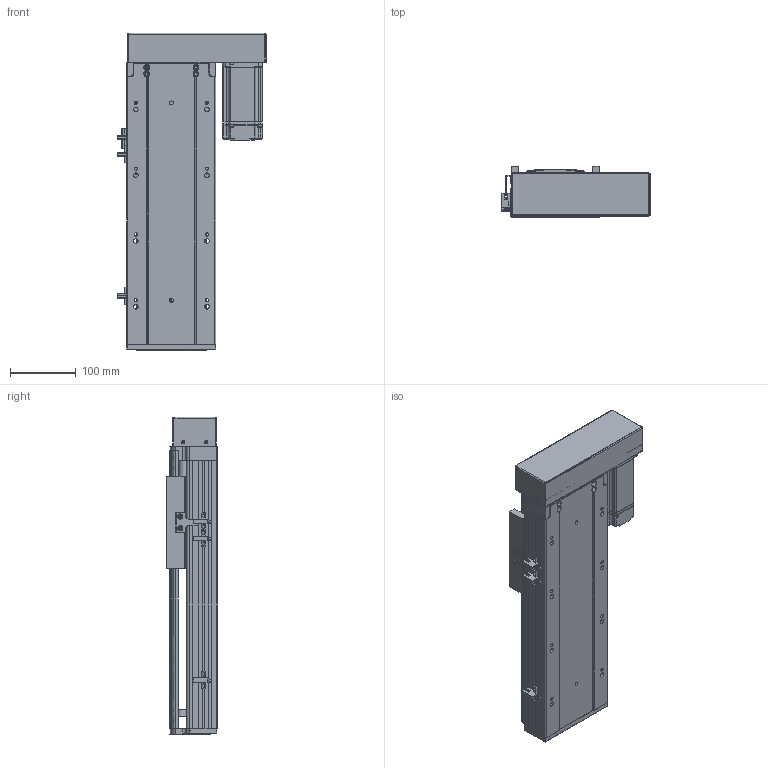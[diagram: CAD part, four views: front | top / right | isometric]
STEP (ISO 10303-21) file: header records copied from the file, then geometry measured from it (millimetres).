
FILE_DESCRIPTION (( 'STEP AP203' ), '1' );
FILE_NAME ('RY140-L1620-300-RK.SLDASM_200.step', '2021-02-22T02:54:09', ( '盈信电脑' ), ( '东莞市道滘镇水果街19号' ), 'SwSTEP 2.0', 'SolidWorks 2012', '' );
FILE_SCHEMA (( 'CONFIG_CONTROL_DESIGN' ));
Products named in the file (14): RY140-L1620-300-RK.SLDASM_200; RY120外置感应片(140共用）; RY140酘衵殏萇儂欶; 覜茼ん672; 侂狟400W侜督萇儂; RY140蛌殏萇儂假蚾啣; 15; RY140转折电机端支撑座; 滅袉蝶18-24; RY140綴裔啣; RY140-300蛌殏倰第奻裔啣-RK_200; 滅袉蝶18-10; RY140臏賑輸; RY140-300蛌殏倰第菁釱-RK_200
Assembly tree (16 placements, depth 3):
  RY140-L1620-300-RK.SLDASM_200
    RY140-300蛌殏倰第菁釱-RK_200
    RY140臏賑輸
    RY140-300蛌殏倰第奻裔啣-RK_200
    RY140綴裔啣
    滅袉蝶18-24  x2
    滅袉蝶18-10
    RY140转折电机端支撑座
    RY140蛌殏萇儂假蚾啣
    侂狟400W侜督萇儂
      15
    RY140酘衵殏萇儂欶
    覜茼ん672  x3
    RY120外置感应片(140共用）
Bounding box: 225.2 x 78 x 483 mm (x, y, z)
Volume: 2091142.9 mm3; surface area: 710803.8 mm2
Topology: 15 solids, 15 shells, 2167 faces, 5956 edges, 3834 vertices
Faces by surface type: plane 1174, cylinder 742, cone 158, bspline 93
Entity records: 68375 total; most frequent: CARTESIAN_POINT 16605, ORIENTED_EDGE 10688, DIRECTION 10097, EDGE_CURVE 5344, LINE 3513, VECTOR 3513, VERTEX_POINT 3502, AXIS2_PLACEMENT_3D 3292
